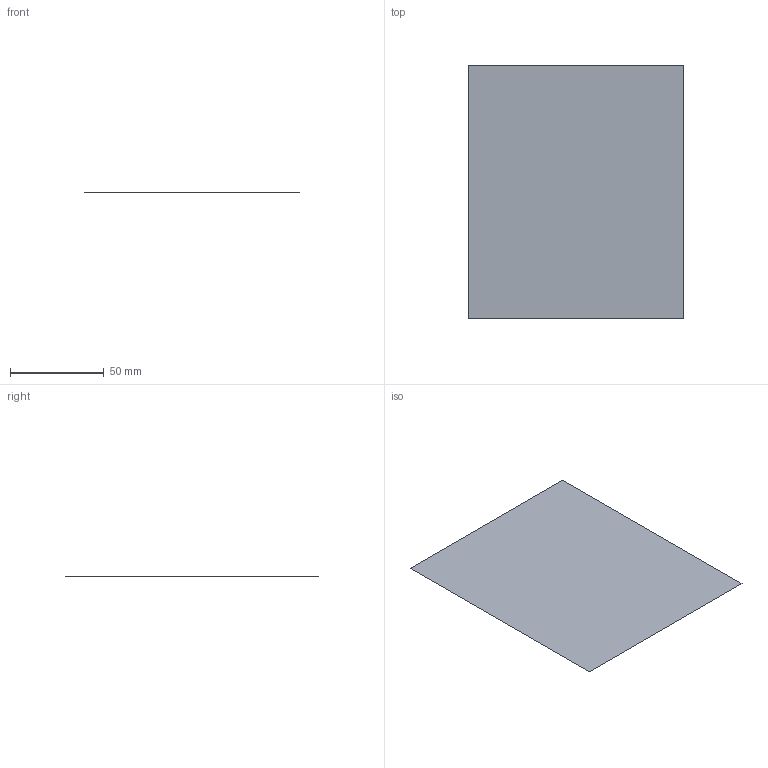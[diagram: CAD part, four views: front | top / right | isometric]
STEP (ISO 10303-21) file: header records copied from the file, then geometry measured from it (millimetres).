
FILE_DESCRIPTION(('CATIA V5 STEP Exchange'),'2;1');
FILE_NAME('C:\_Andres\UNIVERSIDAD\IQS\ASIGNATURAS\DAO\EXF\EXF-15161c\1original\Segura_Sánchez_Ej06-calculo_v25.stp','2016-03-04T20:57:44+00:00',('none'),('none'),'CATIA Version 5 Release 20 SP 1 (IN-10)','CATIA V5 STEP AP203','none');
FILE_SCHEMA(('CONFIG_CONTROL_DESIGN'));
Length unit declared in the file: millimetre
Products named in the file (1): Segura_Sánchez_Ej06-calculo_v25
Bounding box: 115 x 135 x 0 mm (x, y, z)
Surface area: 15525 mm2 (no closed solid volume)
Topology: 0 solids, 1 shells, 1 faces, 8 edges, 9 vertices
Faces by surface type: plane 1
Entity records: 130 total; most frequent: CARTESIAN_POINT 23, DIRECTION 12, VECTOR 8, LINE 8, COMPOSITE_CURVE_SEGMENT 4, ORIENTED_EDGE 4, CC_DESIGN_PERSON_AND_ORGANIZATION_ASSIGNMENT 4, PERSON_AND_ORGANIZATION_ROLE 4
